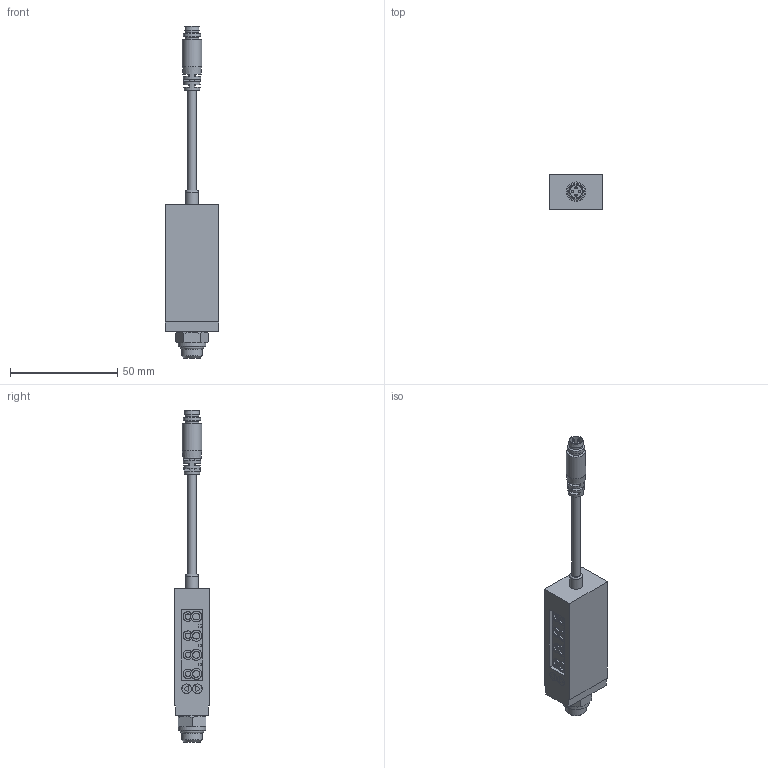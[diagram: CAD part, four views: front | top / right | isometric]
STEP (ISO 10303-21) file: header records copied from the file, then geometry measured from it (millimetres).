
FILE_DESCRIPTION(/* description */ ('VACUOSTATO DIGITALE GIREVOLE'),/* implementation_level */ '2;1');
FILE_NAME(/* name */ 'C:\PNX_VAULTFOLDER\Area Tecnica\Disegni\VARIE-3D\Componenti\1900 (vuoto)\DS_30_C_C_F8_#_2.stp',/* time_stamp */ '2019-09-13T14:44:13+02:00',/* author */ ('maniean1'),/* organization */ (''),/* preprocessor_version */ 'ST-DEVELOPER v17',/* originating_system */ 'Autodesk Inventor 2019',/* authorisation */ '');
FILE_SCHEMA (('AUTOMOTIVE_DESIGN { 1 0 10303 214 3 1 1 }'));
Length unit declared in the file: millimetre
Products named in the file (3): DS.30.C.C.F8.#.2; DS.30.C.C.F8.#.0; CONN_4P
Assembly tree (2 placements, depth 2):
  DS.30.C.C.F8.#.2
    DS.30.C.C.F8.#.0
    CONN_4P
Bounding box: 25 x 16.5 x 154.8 mm (x, y, z)
Volume: 27354 mm3; surface area: 8788.2 mm2
Topology: 2 solids, 4 shells, 242 faces, 563 edges, 373 vertices
Faces by surface type: plane 119, bspline 64, cylinder 37, cone 18, torus 4
Full cylindrical faces by diameter (mm): 0.6 x3, 1 x4, 2 x2, 2.2 x2, 3.8 x2, 4 x3, 5.8 x1, 6 x1, 6.5 x2, 8 x1, 9 x1, 9.73 x1, 12.9 x1, 13 x1
Entity records: 7868 total; most frequent: CARTESIAN_POINT 2314, ORIENTED_EDGE 1126, DIRECTION 906, EDGE_CURVE 563, VERTEX_POINT 373, AXIS2_PLACEMENT_3D 324, EDGE_LOOP 293, LINE 258
